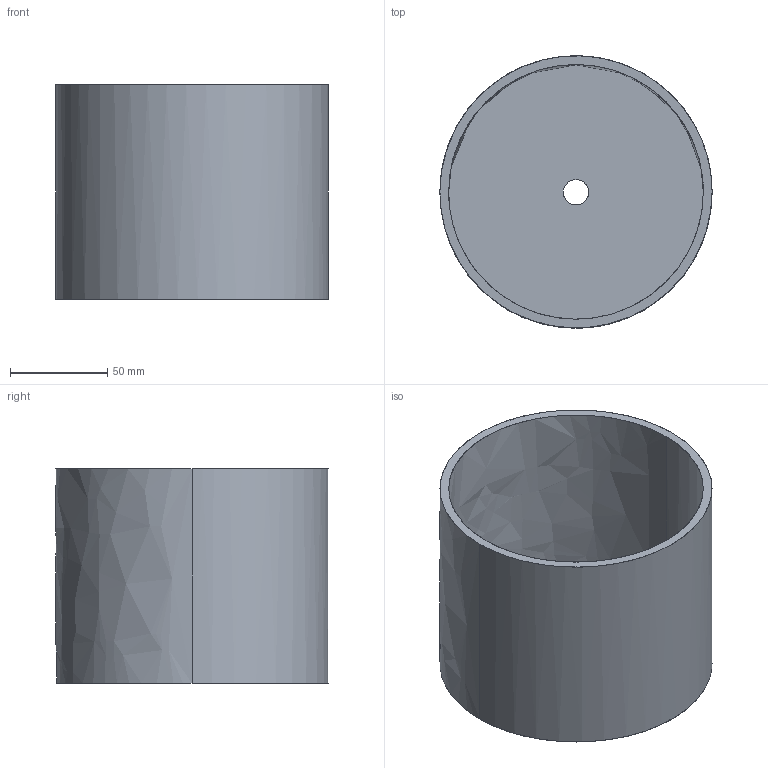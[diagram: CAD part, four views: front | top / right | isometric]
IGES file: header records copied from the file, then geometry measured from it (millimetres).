
Global section: file name: E:\UnigraphicsGraphicData\MISUMI_PRESS-PARTS\IGES\3d_phn90-110-r_07085_r00.igs; native system: NX V5.0; preprocessor: UGS NX IGES V5.0; author: MISUMI; date: 20110105.162252; units: millimetre
Bounding box: 139.8 x 139.8 x 110 mm (x, y, z)
Surface area: 124273.4 mm2 (no closed solid volume)
Topology: 0 solids, 0 shells, 15 faces, 178 edges, 178 vertices
Faces by surface type: bspline 15
